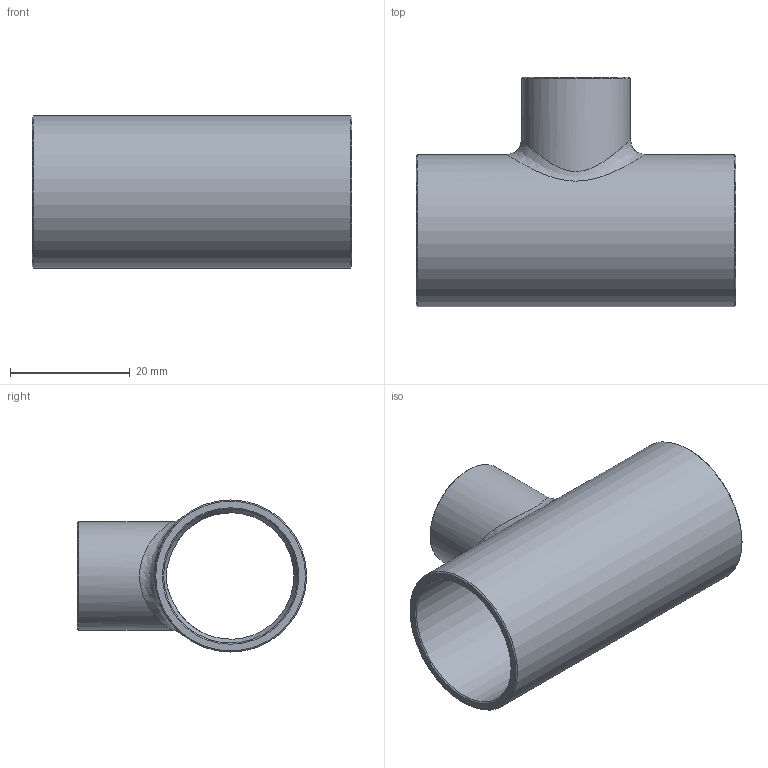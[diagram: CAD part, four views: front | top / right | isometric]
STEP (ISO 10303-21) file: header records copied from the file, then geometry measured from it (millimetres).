
FILE_DESCRIPTION((''),'2;1');
FILE_NAME('G:\SANHA-Ternat\Technik\Management\Bouwmaten + markeringen\z-maattekeningen 3D\29000s\29130785878_3d.stp','2017-08-08T15:12:57',('vdvijverd'),(''),'Autodesk Inventor 2009','Autodesk Inventor 2009','');
FILE_SCHEMA(('AUTOMOTIVE_DESIGN { 1 0 10303 214 1 1 1 1 }'));
Length unit declared in the file: millimetre
Products named in the file (1): 29130785878_3d
Bounding box: 53.4 x 38.3 x 25.4 mm (x, y, z)
Volume: 7362.7 mm3; surface area: 9331.5 mm2
Topology: 1 solids, 1 shells, 22 faces, 56 edges, 35 vertices
Faces by surface type: cone 8, cylinder 7, bspline 4, plane 3
Full cylindrical faces by diameter (mm): 15.995 x1, 18.1 x1, 22.375 x1, 25.4 x1
Entity records: 1815 total; most frequent: CARTESIAN_POINT 1368, DIRECTION 84, ORIENTED_EDGE 70, AXIS2_PLACEMENT_3D 42, EDGE_LOOP 40, EDGE_CURVE 35, VERTEX_POINT 29, CIRCLE 23
